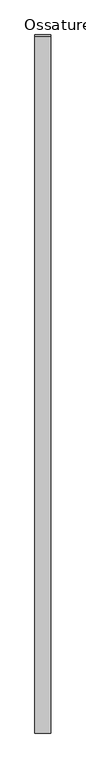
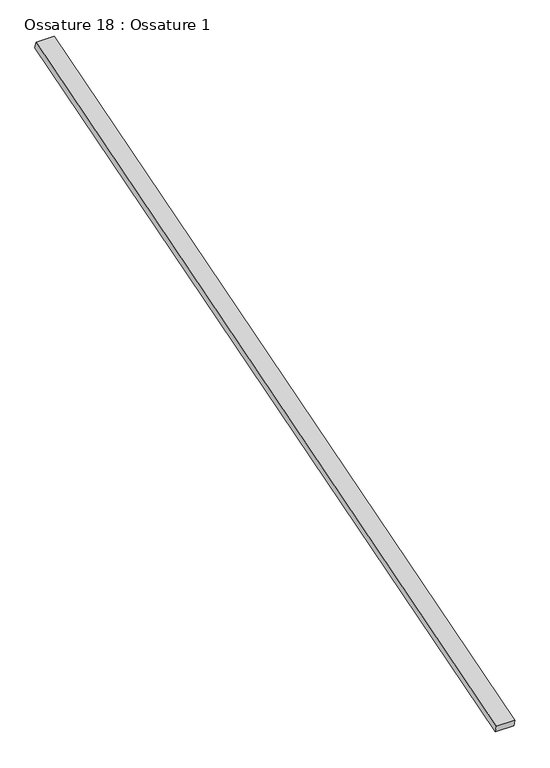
"""IFC4 building model written with IfcOpenShell, lengths in millimetres: beam geometry, Ossature 18 : Ossature 1."""

from ifc_helpers import new_model, si_unit, frame, origin, place, context, project, spatial, polyline, outline, extrude, source, transform, mapped, element, save


def ossature_18_ossature_1_43141781(model_context):
    return source(origin(), model_context, "Body", "SweptSolid", [
        extrude(outline(polyline([(0.0, 0.0), (0.0, -4543.0299679), (-100.0, -4543.0299679), (-100.0, 0.0), (0.0, 0.0)])), frame((4596.0466393, -833.3913565, 8153.6336115), z_axis=(0.0, -0.28734788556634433, 0.9578262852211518), x_axis=(-1.0, 0.0, 0.0)), (0.0, 0.0, 1.0), 40.0),
    ])


if __name__ == "__main__":
    model = new_model("IFC4")
    model_context = context("Model", 3, world=origin())
    ifc_project = project(units=[si_unit("LENGTHUNIT", "METRE", prefix="MILLI")], contexts=[model_context])
    site = spatial("IfcSite", under=ifc_project)
    building = spatial("IfcBuilding", under=site)
    placement = place(None, origin())
    ossature_18_ossature_1_shape = ossature_18_ossature_1_43141781(model_context)
    element("IfcBeam", 1, ObjectType="Ossature 18 : Ossature 1", at=placement, inside=building, context=model_context, shape_type="MappedRepresentation", body=[
        mapped(ossature_18_ossature_1_shape, transform((0.0, 0.0, 0.0), x_axis=(1.0, 0.0, 0.0), y_axis=(0.0, 1.0, 0.0), z_axis=(0.0, 0.0, 1.0))),
    ])
    save(model, "model.ifc")
